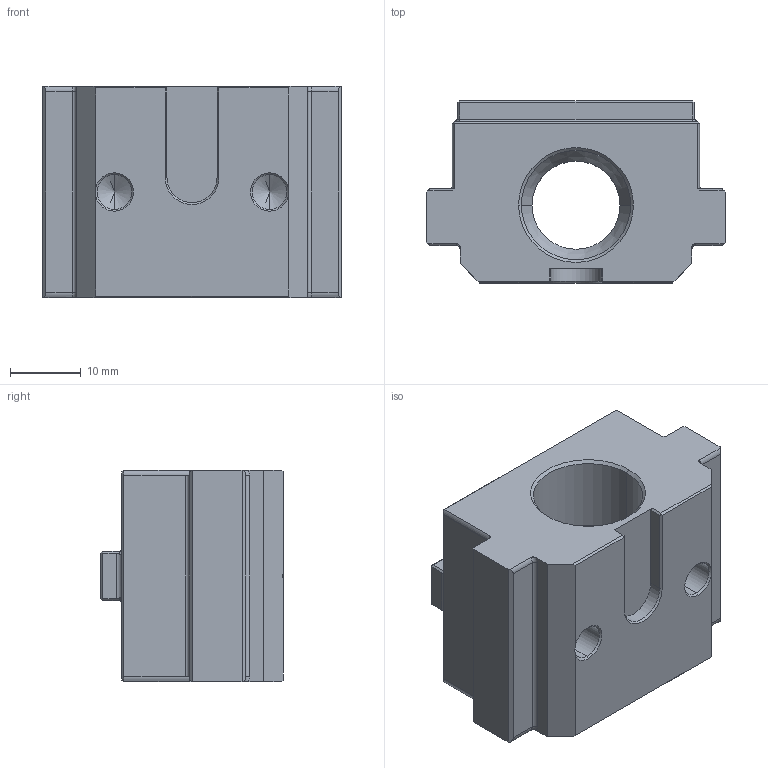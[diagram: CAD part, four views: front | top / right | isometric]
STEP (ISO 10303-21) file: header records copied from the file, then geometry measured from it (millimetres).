
FILE_DESCRIPTION (( 'STEP AP214' ), '1' );
FILE_NAME ('V75100X-2L REV C.STEP', '2022-08-31T17:32:31', ( '' ), ( '' ), 'SwSTEP 2.0', 'SolidWorks 2021', '' );
FILE_SCHEMA (( 'AUTOMOTIVE_DESIGN' ));
Length unit declared in the file: inch
Products named in the file (1): V75100X-2L REV C
Bounding box: 42.5 x 25.86 x 30 mm (x, y, z)
Volume: 17025.5 mm3; surface area: 9019.7 mm2
Topology: 1 solids, 1 shells, 161 faces, 388 edges, 224 vertices
Faces by surface type: plane 75, cylinder 45, cone 37, torus 4
Entity records: 4693 total; most frequent: CARTESIAN_POINT 884, DIRECTION 761, ORIENTED_EDGE 752, EDGE_CURVE 376, AXIS2_PLACEMENT_3D 257, LINE 247, VECTOR 247, VERTEX_POINT 224
